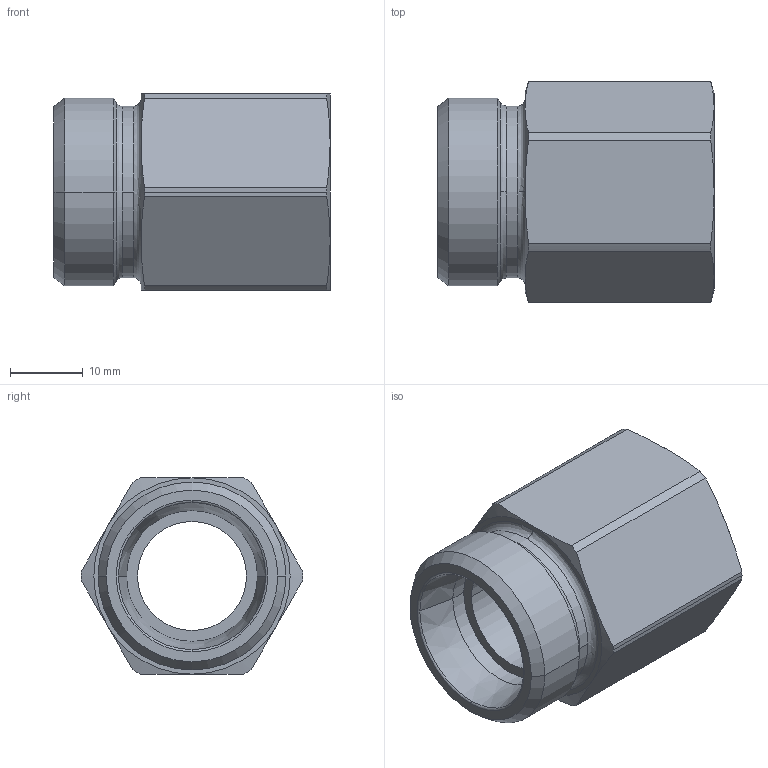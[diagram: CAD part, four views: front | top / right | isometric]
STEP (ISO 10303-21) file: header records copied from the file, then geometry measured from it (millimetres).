
FILE_DESCRIPTION((''),'2;1');
FILE_NAME('100709.stp','2007-10-30T15:13:37',(''),(''),'AutoCAD STEP 2000i','AutoCAD 2000i',', , ');
FILE_SCHEMA(('CONFIG_CONTROL_DESIGN'));
Length unit declared in the file: millimetre
Products named in the file (2): 100709.0; CHIAVE SMUSSATA#0
Assembly tree (1 placements, depth 2):
  100709.0
    CHIAVE SMUSSATA#0
Bounding box: 38 x 30.5 x 27 mm (x, y, z)
Volume: 12636.9 mm3; surface area: 6245.1 mm2
Topology: 1 solids, 1 shells, 56 faces, 134 edges, 82 vertices
Faces by surface type: cone 22, cylinder 18, plane 10, bspline 4, torus 2
Entity records: 1887 total; most frequent: CARTESIAN_POINT 498, DIRECTION 294, ORIENTED_EDGE 268, EDGE_CURVE 134, AXIS2_PLACEMENT_3D 130, VERTEX_POINT 82, CIRCLE 76, EDGE_LOOP 60
